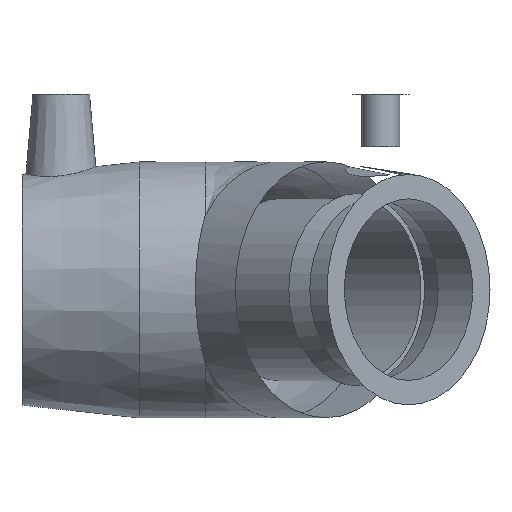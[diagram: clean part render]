
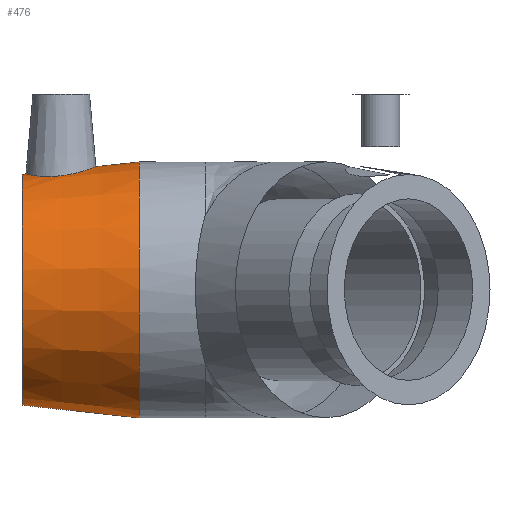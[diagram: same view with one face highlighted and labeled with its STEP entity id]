
A CAD part, top view. The second image highlights one B-rep face of the part: STEP entity #476.
In plain terms, the highlighted conical face has half-angle 6.245 degrees and reference radius 32.214 mm.
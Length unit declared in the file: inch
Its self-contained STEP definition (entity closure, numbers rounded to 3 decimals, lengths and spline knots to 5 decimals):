
#17=B_SPLINE_CURVE_WITH_KNOTS('',3,(#902,#903,#904,#905,#906,#907,#908,
#909,#910,#911),.UNSPECIFIED.,.F.,.F.,(4,2,2,2,4),(0.,0.34335,
0.6867,1.03268,1.37867),.UNSPECIFIED.);
#18=B_SPLINE_CURVE_WITH_KNOTS('',3,(#912,#913,#914,#915,#916,#917,#918,
#919,#920,#921,#922,#923,#924,#925,#926,#927,#928,#929,#930,#931,#932,#933,
#934,#935,#936,#937),.UNSPECIFIED.,.F.,.F.,(4,2,2,2,2,2,2,2,2,2,2,2,4),
(1.37867,1.72465,2.07064,2.41399,2.75734,
3.12622,3.49511,3.85577,4.21644,4.5771,
4.93776,5.30665,5.67554),.UNSPECIFIED.);
#24=CONICAL_SURFACE('',#569,1.26825,0.109);
#39=FACE_BOUND('',#153,.T.);
#55=LINE('',#968,#71);
#71=VECTOR('',#733,1.26825);
#111=FACE_OUTER_BOUND('',#152,.T.);
#152=EDGE_LOOP('',(#427,#428,#429,#430,#431,#432));
#153=EDGE_LOOP('',(#433,#434));
#187=CIRCLE('',#555,1.335);
#188=CIRCLE('',#556,1.335);
#195=CIRCLE('',#567,1.2015);
#196=CIRCLE('',#568,1.2015);
#231=VERTEX_POINT('',#900);
#232=VERTEX_POINT('',#901);
#233=VERTEX_POINT('',#940);
#234=VERTEX_POINT('',#942);
#241=VERTEX_POINT('',#963);
#242=VERTEX_POINT('',#964);
#290=EDGE_CURVE('',#231,#232,#17,.T.);
#291=EDGE_CURVE('',#232,#231,#18,.T.);
#294=EDGE_CURVE('',#233,#234,#187,.T.);
#295=EDGE_CURVE('',#234,#233,#188,.T.);
#304=EDGE_CURVE('',#241,#242,#195,.T.);
#305=EDGE_CURVE('',#242,#241,#196,.T.);
#306=EDGE_CURVE('',#233,#242,#55,.T.);
#427=ORIENTED_EDGE('',*,*,#295,.F.);
#428=ORIENTED_EDGE('',*,*,#294,.F.);
#429=ORIENTED_EDGE('',*,*,#306,.T.);
#430=ORIENTED_EDGE('',*,*,#305,.T.);
#431=ORIENTED_EDGE('',*,*,#304,.T.);
#432=ORIENTED_EDGE('',*,*,#306,.F.);
#433=ORIENTED_EDGE('',*,*,#290,.T.);
#434=ORIENTED_EDGE('',*,*,#291,.T.);
#476=ADVANCED_FACE('',(#111,#39),#24,.T.);
#555=AXIS2_PLACEMENT_3D('',#943,#701,#702);
#556=AXIS2_PLACEMENT_3D('',#944,#703,#704);
#567=AXIS2_PLACEMENT_3D('',#965,#727,#728);
#568=AXIS2_PLACEMENT_3D('',#966,#729,#730);
#569=AXIS2_PLACEMENT_3D('',#967,#731,#732);
#701=DIRECTION('center_axis',(1.,0.,0.));
#702=DIRECTION('ref_axis',(0.,0.,-1.));
#703=DIRECTION('center_axis',(1.,0.,0.));
#704=DIRECTION('ref_axis',(0.,0.,-1.));
#727=DIRECTION('center_axis',(1.,0.,0.));
#728=DIRECTION('ref_axis',(0.,0.,-1.));
#729=DIRECTION('center_axis',(1.,0.,0.));
#730=DIRECTION('ref_axis',(0.,0.,-1.));
#731=DIRECTION('center_axis',(1.,0.,0.));
#732=DIRECTION('ref_axis',(0.,1.,0.));
#733=DIRECTION('',(-0.994,0.109,0.));
#900=CARTESIAN_POINT('',(-1.96738,1.18847,0.36946));
#901=CARTESIAN_POINT('',(-2.32025,1.20596,0.));
#902=CARTESIAN_POINT('Ctrl Pts',(-1.96738,1.18847,0.36946));
#903=CARTESIAN_POINT('Ctrl Pts',(-2.01217,1.18379,0.368));
#904=CARTESIAN_POINT('Ctrl Pts',(-2.05983,1.1817,0.35753));
#905=CARTESIAN_POINT('Ctrl Pts',(-2.147,1.18297,0.31835));
#906=CARTESIAN_POINT('Ctrl Pts',(-2.18653,1.18617,0.28965));
#907=CARTESIAN_POINT('Ctrl Pts',(-2.24882,1.19329,0.22443));
#908=CARTESIAN_POINT('Ctrl Pts',(-2.27578,1.19769,0.18338));
#909=CARTESIAN_POINT('Ctrl Pts',(-2.31149,1.20409,0.09387));
#910=CARTESIAN_POINT('Ctrl Pts',(-2.32025,1.20596,0.0454));
#911=CARTESIAN_POINT('Ctrl Pts',(-2.32025,1.20596,0.));
#912=CARTESIAN_POINT('Ctrl Pts',(-2.32025,1.20596,0.));
#913=CARTESIAN_POINT('Ctrl Pts',(-2.32025,1.20596,-0.0454));
#914=CARTESIAN_POINT('Ctrl Pts',(-2.31149,1.20409,-0.09387));
#915=CARTESIAN_POINT('Ctrl Pts',(-2.27578,1.19769,-0.18338));
#916=CARTESIAN_POINT('Ctrl Pts',(-2.24882,1.19329,-0.22443));
#917=CARTESIAN_POINT('Ctrl Pts',(-2.18653,1.18617,-0.28965));
#918=CARTESIAN_POINT('Ctrl Pts',(-2.147,1.18297,-0.31835));
#919=CARTESIAN_POINT('Ctrl Pts',(-2.05983,1.1817,-0.35753));
#920=CARTESIAN_POINT('Ctrl Pts',(-2.01217,1.18379,-0.368));
#921=CARTESIAN_POINT('Ctrl Pts',(-1.91926,1.19349,-0.37102));
#922=CARTESIAN_POINT('Ctrl Pts',(-1.86836,1.20212,-0.36245));
#923=CARTESIAN_POINT('Ctrl Pts',(-1.77523,1.22328,-0.3252));
#924=CARTESIAN_POINT('Ctrl Pts',(-1.73293,1.23561,-0.29654));
#925=CARTESIAN_POINT('Ctrl Pts',(-1.66688,1.25693,-0.23059));
#926=CARTESIAN_POINT('Ctrl Pts',(-1.63835,1.26738,-0.18911));
#927=CARTESIAN_POINT('Ctrl Pts',(-1.60027,1.28187,-0.09749));
#928=CARTESIAN_POINT('Ctrl Pts',(-1.59074,1.28578,-0.04733));
#929=CARTESIAN_POINT('Ctrl Pts',(-1.59074,1.28578,0.04733));
#930=CARTESIAN_POINT('Ctrl Pts',(-1.60027,1.28187,0.09749));
#931=CARTESIAN_POINT('Ctrl Pts',(-1.63835,1.26738,0.18911));
#932=CARTESIAN_POINT('Ctrl Pts',(-1.66688,1.25693,0.23059));
#933=CARTESIAN_POINT('Ctrl Pts',(-1.73293,1.23561,0.29654));
#934=CARTESIAN_POINT('Ctrl Pts',(-1.77523,1.22328,0.3252));
#935=CARTESIAN_POINT('Ctrl Pts',(-1.86836,1.20212,0.36245));
#936=CARTESIAN_POINT('Ctrl Pts',(-1.91926,1.19349,0.37102));
#937=CARTESIAN_POINT('Ctrl Pts',(-1.96738,1.18847,0.36946));
#940=CARTESIAN_POINT('',(-1.14096,-1.335,0.));
#942=CARTESIAN_POINT('',(-1.14096,1.335,0.));
#943=CARTESIAN_POINT('Origin',(-1.14096,0.,
0.));
#944=CARTESIAN_POINT('Origin',(-1.14096,0.,
0.));
#963=CARTESIAN_POINT('',(-2.36096,1.2015,0.));
#964=CARTESIAN_POINT('',(-2.36096,-1.2015,0.));
#965=CARTESIAN_POINT('Origin',(-2.36096,0.,0.));
#966=CARTESIAN_POINT('Origin',(-2.36096,0.,0.));
#967=CARTESIAN_POINT('Origin',(-1.75096,0.,
0.));
#968=CARTESIAN_POINT('',(-1.75096,-1.26825,0.));
